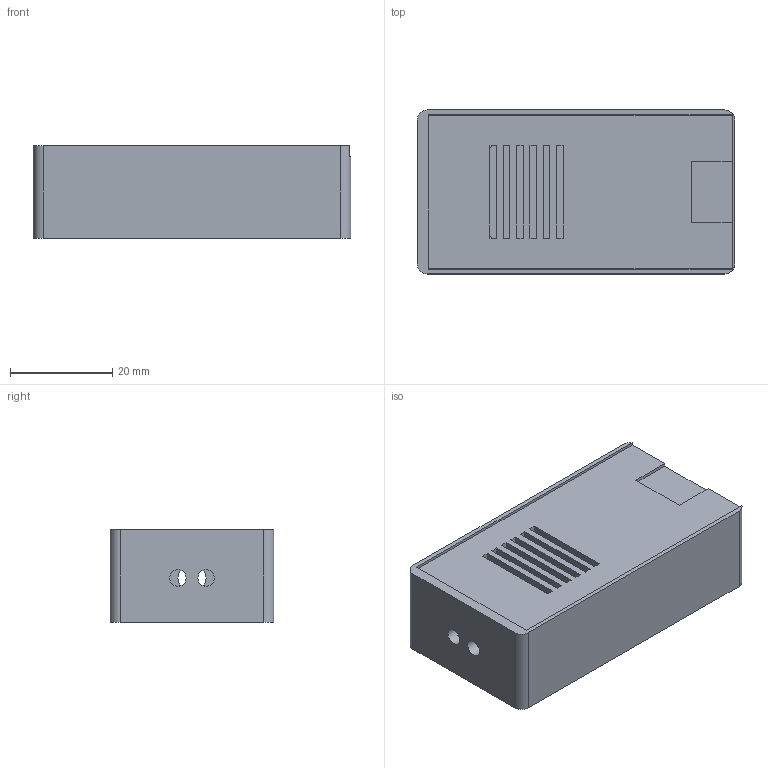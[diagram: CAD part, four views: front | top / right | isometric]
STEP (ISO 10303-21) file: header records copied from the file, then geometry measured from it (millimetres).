
FILE_DESCRIPTION(('Open CASCADE Model'),'2;1');
FILE_NAME('Open CASCADE Shape Model','2026-09-07T15:20:36',('Author'),( 'Open CASCADE'),'Open CASCADE STEP processor 7.9','Open CASCADE 7.9' ,'Unknown');
FILE_SCHEMA(('AUTOMOTIVE_DESIGN { 1 0 10303 214 1 1 1 1 }'));
Length unit declared in the file: millimetre
Products named in the file (1): Open CASCADE STEP translator 7.9 3
Bounding box: 62 x 32 x 18 mm (x, y, z)
Volume: 12374 mm3; surface area: 13864.9 mm2
Topology: 1 solids, 1 shells, 77 faces, 190 edges, 126 vertices
Faces by surface type: plane 62, cylinder 15
Full cylindrical faces by diameter (mm): 1.7 x4, 3.2 x2, 4.2 x4, 5.5 x1
Entity records: 4829 total; most frequent: CARTESIAN_POINT 901, DIRECTION 731, LINE 499, VECTOR 499, ORIENTED_EDGE 382, PCURVE 380, DEFINITIONAL_REPRESENTATION 380, EDGE_CURVE 190
